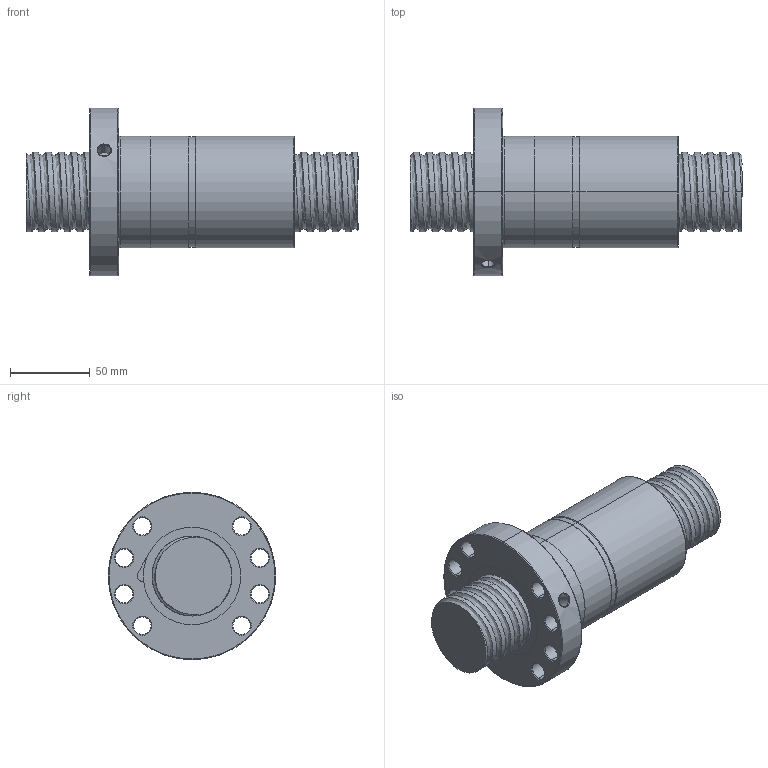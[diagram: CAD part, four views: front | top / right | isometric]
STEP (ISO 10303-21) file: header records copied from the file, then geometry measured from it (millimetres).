
FILE_DESCRIPTION (( 'STEP AP214' ), '1' );
FILE_NAME ('FDDC05008T5-D-A.STEP', '2010-07-07T01:47:33', ( 'XPAUTO' ), ( 'XPAUTO' ), 'SwSTEP 2.0', 'SolidWorks 2007', '' );
FILE_SCHEMA (( 'AUTOMOTIVE_DESIGN' ));
Length unit declared in the file: millimetre
Products named in the file (3): FDDC05008T5-D-A.sldasm-Part-2_預設; FDDC05008T5-D-A; FDDC05008T5-D-A.sldasm-Part-1_預設
Assembly tree (2 placements, depth 2):
  FDDC05008T5-D-A
    FDDC05008T5-D-A.sldasm-Part-1_預設
    FDDC05008T5-D-A.sldasm-Part-2_預設
Bounding box: 208 x 105 x 105 mm (x, y, z)
Volume: 691459.8 mm3; surface area: 110934.2 mm2
Topology: 2 solids, 2 shells, 160 faces, 402 edges, 251 vertices
Faces by surface type: cylinder 97, cone 32, plane 16, torus 10, bspline 5
Entity records: 47637 total; most frequent: CARTESIAN_POINT 43845, ORIENTED_EDGE 804, DIRECTION 732, EDGE_CURVE 402, AXIS2_PLACEMENT_3D 298, VERTEX_POINT 251, EDGE_LOOP 185, FACE_OUTER_BOUND 160
